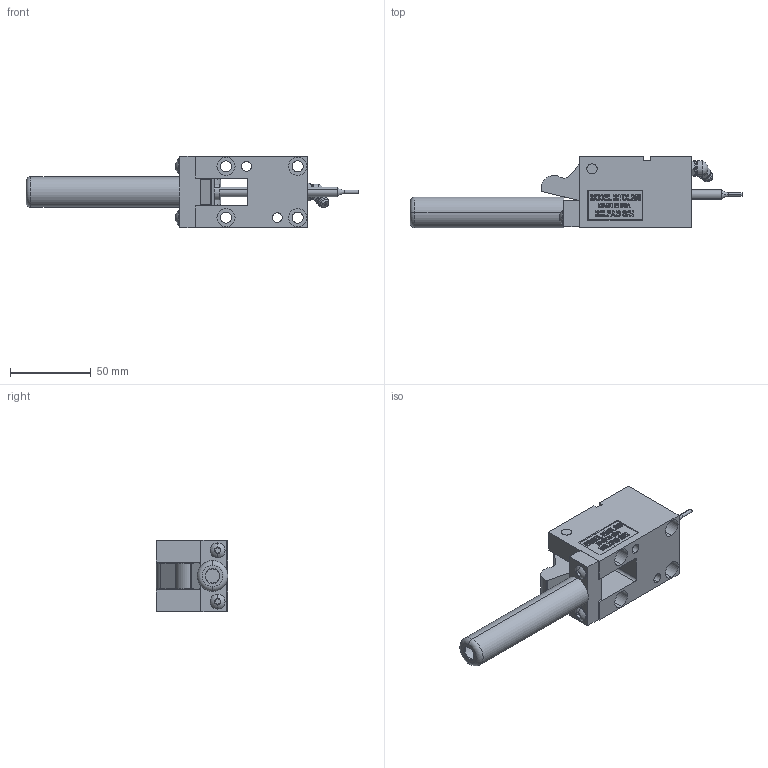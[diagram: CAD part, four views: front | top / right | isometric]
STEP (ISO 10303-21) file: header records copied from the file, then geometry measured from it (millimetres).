
FILE_DESCRIPTION (( 'STEP AP214' ), '1' );
FILE_NAME ('MTOL25045-C.STEP', '2014-01-08T20:04:13', ( 'user' ), ( '' ), 'SwSTEP 2.0', 'SolidWorks 2009', '' );
FILE_SCHEMA (( 'AUTOMOTIVE_DESIGN' ));
Length unit declared in the file: inch
Products named in the file (10): 10-SCREW; MTOL25045-C; 250-O-STRAP; 250-OFFSET TRIGGER; GREASE ZERK; 250 PIVOT PIN; MTOL250-BODY; OL250-CAGE; M-O-250-POINT; MOL250-PUNCH
Assembly tree (10 placements, depth 2):
  MTOL25045-C
    MTOL250-BODY
    10-SCREW  x2
    250-O-STRAP
    250 PIVOT PIN
    M-O-250-POINT
    250-OFFSET TRIGGER
    OL250-CAGE
    GREASE ZERK
    MOL250-PUNCH
Bounding box: 205.59 x 44.45 x 44.45 mm (x, y, z)
Volume: 121999 mm3; surface area: 47844.6 mm2
Topology: 10 solids, 10 shells, 602 faces, 1555 edges, 1022 vertices
Faces by surface type: plane 359, bspline 97, cylinder 94, cone 26, torus 26
Entity records: 23762 total; most frequent: CARTESIAN_POINT 9683, ORIENTED_EDGE 3026, DIRECTION 2455, EDGE_CURVE 1513, VECTOR 1009, LINE 1009, VERTEX_POINT 998, AXIS2_PLACEMENT_3D 723
